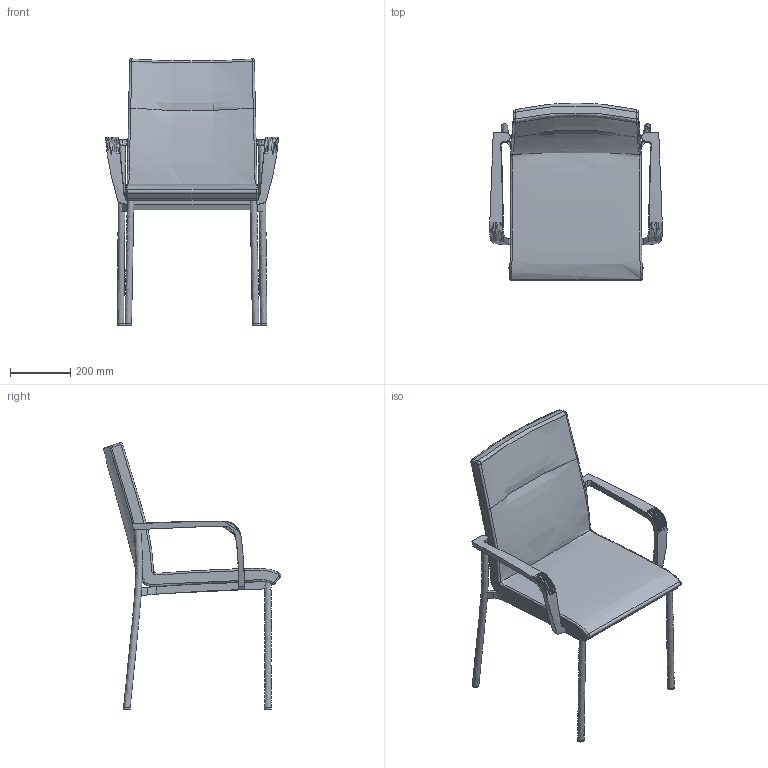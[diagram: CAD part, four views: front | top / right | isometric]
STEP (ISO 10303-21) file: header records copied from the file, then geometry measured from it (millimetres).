
FILE_DESCRIPTION(/* description */ (''),/* implementation_level */ '2;1');
FILE_NAME(/* name */ 'Seance Care 070-BRD',/* time_stamp */ '2020-03-26T12:42:20+01:00',/* author */ (''),/* organization */ (''),/* preprocessor_version */ 'ST-DEVELOPER v16.5',/* originating_system */ '',/* authorisation */ '');
FILE_SCHEMA (('AUTOMOTIVE_DESIGN'));
Length unit declared in the file: millimetre
Products named in the file (1): Document
Bounding box: 573.87 x 590.65 x 885.26 mm (x, y, z)
Volume: 19257686.2 mm3; surface area: 1384086.6 mm2
Topology: 5 solids, 14 shells, 91 faces, 219 edges, 146 vertices
Faces by surface type: bspline 81, plane 10
Entity records: 8936 total; most frequent: CARTESIAN_POINT 7496, ORIENTED_EDGE 408, EDGE_CURVE 216, B_SPLINE_CURVE_WITH_KNOTS 174, VERTEX_POINT 140, ADVANCED_FACE 91, FACE_OUTER_BOUND 91, EDGE_LOOP 91
